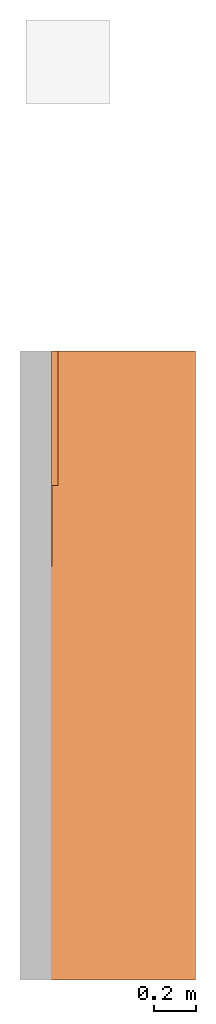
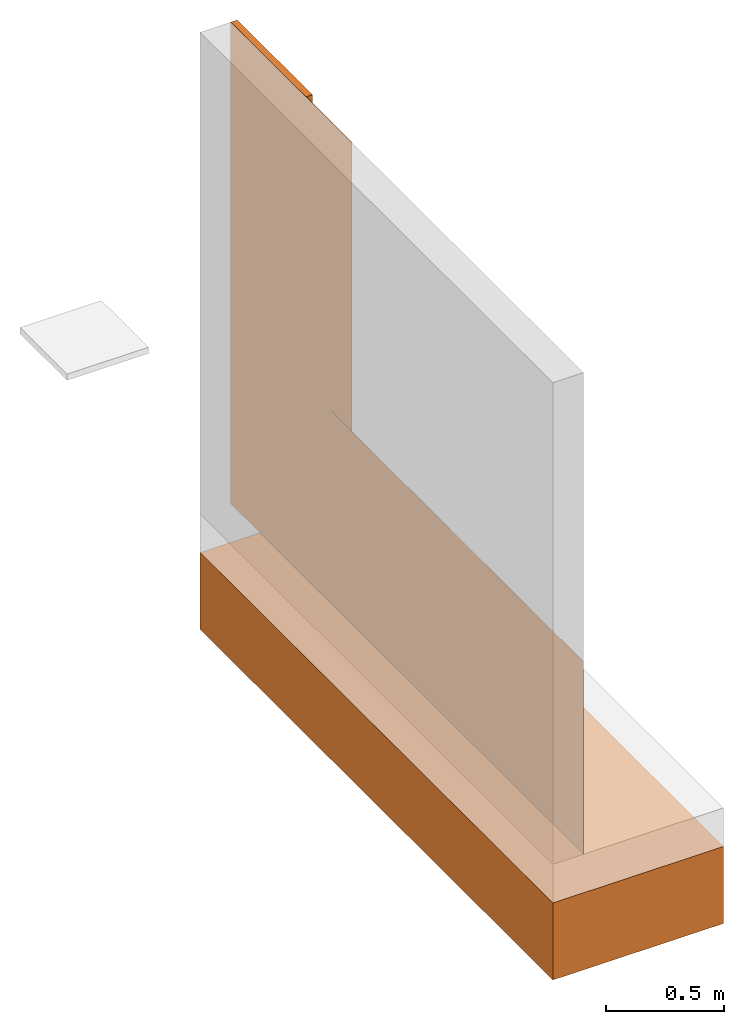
# One storey, part 2 of 2: 1 proxy.
"""IFC2X3 building model written with IfcOpenShell, lengths in metres."""

from ifc_helpers import new_model, entity, si_unit, converted_unit, derived_unit, direction, frame, frame_2d, origin, origin_2d_with_axis, place, context, subcontext, project, spatial, rectangle, extrude, source, transform, mapped, material, material_list, type_object, type_shapes, element, save


model = new_model("IFC2X3")

# Units and contexts
model_context = context("Model", 3, precision=1e-05, world=origin(), true_north=direction((6.123031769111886e-17, 1.0)))
body_context = subcontext(model_context, "Body", "Model", "MODEL_VIEW")
ifc_project = project(units=[si_unit("LENGTHUNIT", "METRE"), si_unit("AREAUNIT", "SQUARE_METRE"), si_unit("VOLUMEUNIT", "CUBIC_METRE"), converted_unit("PLANEANGLEUNIT", "DEGREE", entity("IfcRatioMeasure", 0.017453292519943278), si_unit("PLANEANGLEUNIT", "RADIAN"), dimensions=[0, 0, 0, 0, 0, 0, 0]), si_unit("MASSUNIT", "GRAM", prefix="KILO"), derived_unit("MASSDENSITYUNIT", [(si_unit("MASSUNIT", "GRAM", prefix="KILO"), 1), (si_unit("LENGTHUNIT", "METRE"), -3)]), derived_unit("IONCONCENTRATIONUNIT", [(si_unit("MASSUNIT", "GRAM", prefix="KILO"), 1), (si_unit("LENGTHUNIT", "METRE"), -3)]), derived_unit("MOMENTOFINERTIAUNIT", [(si_unit("LENGTHUNIT", "METRE"), 4)]), si_unit("TIMEUNIT", "SECOND"), si_unit("FREQUENCYUNIT", "HERTZ"), si_unit("THERMODYNAMICTEMPERATUREUNIT", "DEGREE_CELSIUS"), derived_unit("THERMALTRANSMITTANCEUNIT", [(si_unit("MASSUNIT", "GRAM", prefix="KILO"), 1), (si_unit("THERMODYNAMICTEMPERATUREUNIT", "KELVIN"), -1), (si_unit("TIMEUNIT", "SECOND"), -3)]), derived_unit("THERMALCONDUCTANCEUNIT", [(si_unit("MASSUNIT", "GRAM", prefix="KILO"), 1), (si_unit("THERMODYNAMICTEMPERATUREUNIT", "KELVIN"), -1), (si_unit("TIMEUNIT", "SECOND"), -3), (si_unit("LENGTHUNIT", "METRE"), 1)]), derived_unit("VOLUMETRICFLOWRATEUNIT", [(si_unit("LENGTHUNIT", "METRE"), 3), (si_unit("TIMEUNIT", "SECOND"), -1)]), derived_unit("MASSFLOWRATEUNIT", [(si_unit("MASSUNIT", "GRAM", prefix="KILO"), 1), (si_unit("TIMEUNIT", "SECOND"), -1)]), derived_unit("ROTATIONALFREQUENCYUNIT", [(si_unit("TIMEUNIT", "SECOND"), -1)]), si_unit("ELECTRICCURRENTUNIT", "AMPERE"), si_unit("ELECTRICVOLTAGEUNIT", "VOLT"), si_unit("POWERUNIT", "WATT"), si_unit("FORCEUNIT", "NEWTON", prefix="KILO"), si_unit("ILLUMINANCEUNIT", "LUX"), si_unit("LUMINOUSFLUXUNIT", "LUMEN"), si_unit("LUMINOUSINTENSITYUNIT", "CANDELA"), derived_unit("USERDEFINED", [(si_unit("MASSUNIT", "GRAM", prefix="KILO"), -1), (si_unit("LENGTHUNIT", "METRE"), -2), (si_unit("TIMEUNIT", "SECOND"), 3), (si_unit("LUMINOUSFLUXUNIT", "LUMEN"), 1)]), derived_unit("USERDEFINED", [(si_unit("MASSUNIT", "GRAM", prefix="KILO"), 1), (si_unit("TIMEUNIT", "SECOND"), -3), (si_unit("LENGTHUNIT", "METRE"), 3), (si_unit("ELECTRICCURRENTUNIT", "AMPERE"), -2)]), derived_unit("SOUNDPOWERUNIT", [(si_unit("MASSUNIT", "GRAM", prefix="KILO"), 1), (si_unit("TIMEUNIT", "SECOND"), -3), (si_unit("LENGTHUNIT", "METRE"), 2)]), derived_unit("SOUNDPRESSUREUNIT", [(si_unit("MASSUNIT", "GRAM", prefix="KILO"), 1), (si_unit("LENGTHUNIT", "METRE"), -1), (si_unit("TIMEUNIT", "SECOND"), -2)]), derived_unit("LINEARVELOCITYUNIT", [(si_unit("LENGTHUNIT", "METRE"), 1), (si_unit("TIMEUNIT", "SECOND"), -1)]), si_unit("PRESSUREUNIT", "PASCAL"), derived_unit("USERDEFINED", [(si_unit("MASSUNIT", "GRAM", prefix="KILO"), 1), (si_unit("LENGTHUNIT", "METRE"), -2), (si_unit("TIMEUNIT", "SECOND"), -2)]), derived_unit("LINEARFORCEUNIT", [(si_unit("MASSUNIT", "GRAM", prefix="KILO"), 1), (si_unit("TIMEUNIT", "SECOND"), -2)]), derived_unit("PLANARFORCEUNIT", [(si_unit("MASSUNIT", "GRAM", prefix="KILO"), 1), (si_unit("LENGTHUNIT", "METRE"), -1), (si_unit("TIMEUNIT", "SECOND"), -2)]), derived_unit("SPECIFICHEATCAPACITYUNIT", [(si_unit("THERMODYNAMICTEMPERATUREUNIT", "KELVIN"), -1), (si_unit("LENGTHUNIT", "METRE"), 2), (si_unit("TIMEUNIT", "SECOND"), -2)]), derived_unit("HEATINGVALUEUNIT", [(si_unit("LENGTHUNIT", "METRE"), 2), (si_unit("TIMEUNIT", "SECOND"), -2)]), derived_unit("VAPORPERMEABILITYUNIT", [(si_unit("LENGTHUNIT", "METRE"), -1), (si_unit("TIMEUNIT", "SECOND"), 1)]), derived_unit("DYNAMICVISCOSITYUNIT", [(si_unit("MASSUNIT", "GRAM", prefix="KILO"), 1), (si_unit("TIMEUNIT", "SECOND"), -1), (si_unit("LENGTHUNIT", "METRE"), -1)]), derived_unit("THERMALEXPANSIONCOEFFICIENTUNIT", [(si_unit("THERMODYNAMICTEMPERATUREUNIT", "KELVIN"), -1)]), derived_unit("MODULUSOFELASTICITYUNIT", [(si_unit("MASSUNIT", "GRAM", prefix="KILO"), 1), (si_unit("LENGTHUNIT", "METRE"), -1), (si_unit("TIMEUNIT", "SECOND"), -2)]), derived_unit("ISOTHERMALMOISTURECAPACITYUNIT", [(si_unit("LENGTHUNIT", "METRE"), 3), (si_unit("MASSUNIT", "GRAM", prefix="KILO"), -1)]), derived_unit("MOISTUREDIFFUSIVITYUNIT", [(si_unit("TIMEUNIT", "SECOND"), -1), (si_unit("LENGTHUNIT", "METRE"), 2)])], contexts=[model_context])

# Site, building, storey
site_placement = place(None, origin())
site = spatial("IfcSite", under=ifc_project, at=site_placement, Name="Default", CompositionType="ELEMENT")
building_placement = place(site_placement, origin())
building = spatial("IfcBuilding", under=site, at=building_placement, CompositionType="ELEMENT")
storey_placement = place(building_placement, frame((0.0, 0.0, -0.0025237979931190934)))
storey = spatial("IfcBuildingStorey", under=building, at=storey_placement, Name="ARQ Térreo", CompositionType="ELEMENT", Elevation=-0.0025237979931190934)

# Proxy
ifc_material_1 = material(Name="#Viaplus 2000")
ifc_material_2 = material(Name="#reboco")
ifc_material_3 = material(Name="#chapisco")
ifc_material_4 = material(Name="#solo")
ifc_material_list = material_list([ifc_material_1, ifc_material_2, ifc_material_3, ifc_material_4])
building_element_proxy_type = type_object("IfcBuildingElementProxyType", Name="IMPER:IMPER", PredefinedType="NOTDEFINED", material=ifc_material_list)
shared_shape = source(origin(), body_context, "Body", "SweptSolid", [
    extrude(rectangle(XDim=3.000000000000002, YDim=0.0010113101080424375, at=origin_2d_with_axis()), frame((-0.21654432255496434, -0.6256739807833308, -0.0025237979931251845), z_axis=(0.0, 0.0, 1.0), x_axis=(0.0, -1.0, 0.0)), (0.0, 0.0, 1.0), 0.9999999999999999),
    extrude(rectangle(XDim=0.6400000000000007, YDim=0.03201131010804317, at=origin_2d_with_axis()), frame((-0.2010443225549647, 0.5543260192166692, -0.0025237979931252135), z_axis=(0.0, 0.0, 1.0), x_axis=(0.0, -1.0, 0.0)), (0.0, 0.0, 1.0), 2.4999999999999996),
    extrude(rectangle(XDim=1.0284359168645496, YDim=0.0010000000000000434, at=origin_2d_with_axis()), frame((-0.2155386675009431, 0.3601080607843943, -0.0025237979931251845), z_axis=(0.0, 0.0, 1.0), x_axis=(0.0, -1.0, 0.0)), (0.0, 0.0, 1.0), 2.4999999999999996),
    extrude(rectangle(XDim=0.8370347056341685, YDim=3.000000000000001, at=frame_2d((0.0, -2.220446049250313e-16), x_axis=(1.0, 0.0))), frame((0.05146737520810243, -0.6256739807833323, -0.60252379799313), z_axis=(0.0, 0.0, 1.0), x_axis=(-1.0, 0.0, 0.0)), (0.0, 0.0, 1.0), 0.4),
])
type_shapes(building_element_proxy_type, [shared_shape])
proxy_placement = place(storey_placement, frame((0.0, 0.0, 0.0025237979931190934)))
element("IfcBuildingElementProxy", 1, at=proxy_placement, inside=storey, type_object=building_element_proxy_type, material=ifc_material_list, Name="IMPER:IMPER:IMPER : IMPER:IMPER", ObjectType="IMPER:IMPER:IMPER : IMPER:IMPER", context=body_context, shape_type="MappedRepresentation", body=[
    mapped(shared_shape, transform((0.0, 0.0, 0.0), scale=1.0)),
])

save(model, "model.ifc")
